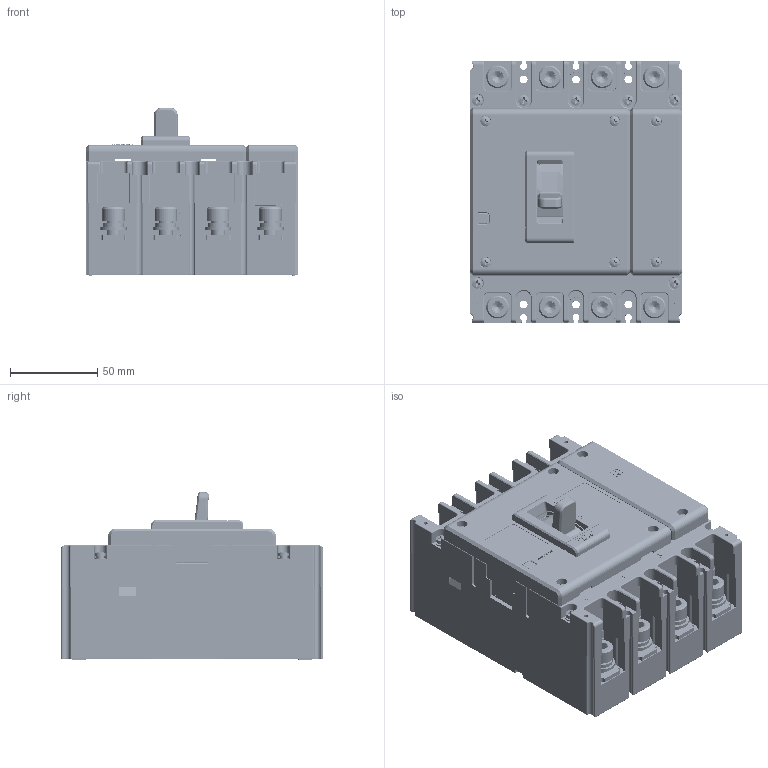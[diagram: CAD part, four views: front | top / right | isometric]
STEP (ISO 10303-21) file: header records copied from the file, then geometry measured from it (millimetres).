
FILE_DESCRIPTION((''),'2;1');
FILE_NAME('2253024700_ASM_ASM','2021-06-10T',('guobiao.he'),(''),'PRO/ENGINEER BY PARAMETRIC TECHNOLOGY CORPORATION, 2015440','PRO/ENGINEER BY PARAMETRIC TECHNOLOGY CORPORATION, 2015440','');
FILE_SCHEMA(('CONFIG_CONTROL_DESIGN'));
Products named in the file (59): JZ8024044800_120; GB_T809_M3_5X12_4; 5024044800_ASM_91_ASM; 70801007_GB_T6170_M8_2; 8551037900_1; 8550079800_8; 5551081000_ASM_2_ASM; GB_T823-M3_5X10_7; 7090300201_GB_T93_3_10; 8950019500_5; 5850004500_ASM_1_ASM; GB_T109-2X7_12; 5420213400_ASM_23_ASM; 8585071200_4; 5420213500_ASM_19_ASM; 5551103400_ASM_34_ASM; 5551103500_ASM_15_ASM; 5551103300_ASM_14_ASM; MANIFOLD_SOLID_BREP_119020; MANIFOLD_SOLID_BREP_119171; 8505026800_3_ASM; 8585065200_4; 5551108300_ASM_9_ASM; 5551108400_ASM_5_ASM; 55511035P02_2; 5551106000_ASM_15_ASM; 5551107900_ASM_7_ASM; 5551108000_ASM_11_ASM; GB_T818-M3X8_3; 8950022000_1; 5850005300_ASM_2_ASM; 5511007100_ASM_1_ASM; 8231017100_3; GB_T823-M3_5X25_7; 5850007100_ASM_2_ASM; 5295008500_ASM_49_ASM; 8742111600_2; 8742111500_1; 8253076900_21; 5253029000_ASM_21_ASM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
Assembly tree (126 placements, depth 11):
  2253024700_ASM_ASM
    2253024700_ASM_49_ASM
      5295008500_ASM_49_ASM
        5024044800_ASM_91_ASM
          JZ8024044800_120
          GB_T809_M3_5X12_4  x7
        70801007_GB_T6170_M8_2  x8
        5551081000_ASM_2_ASM  x4
          8551037900_1
          8550079800_8
        5850004500_ASM_1_ASM  x8
          GB_T823-M3_5X10_7
          7090300201_GB_T93_3_10
          8950019500_5
        5551108000_ASM_11_ASM
          5551107900_ASM_7_ASM
            5551106000_ASM_15_ASM
              5551103500_ASM_15_ASM  x3
                5551103400_ASM_34_ASM
                  5420213500_ASM_19_ASM
              5551108400_ASM_5_ASM
                5551108300_ASM_9_ASM
                  5551103300_ASM_14_ASM
                  8505026800_3_ASM
                  8585065200_4
              55511035P02_2
        5850005300_ASM_2_ASM  x3
          GB_T818-M3X8_3
          7090300201_GB_T93_3_10
          8950022000_1
        5511007100_ASM_1_ASM
          8585065200_4  x2
          8505026800_3_ASM
            MANIFOLD_SOLID_BREP_119020
            MANIFOLD_SOLID_BREP_119171
        8231017100_3
        5850007100_ASM_2_ASM  x4
          GB_T823-M3_5X25_7
          7090300201_GB_T93_3_10
          8950019500_5
      8742111600_2  x4
      8742111500_1  x4
      5253029000_ASM_21_ASM
        8253076900_21
      8156031900_1  x3
      5850008100_ASM_5_ASM  x8
        7010600401L_GB_T70_1_M8X16_1
        7090370701K_GB_T93_8_10
        GB_T97_4_8_3
      8750038500_11
      8750034300_1  x4
      5315052200_ASM_18_ASM
        5315051100_ASM_13_ASM
          8315096200_106
          8282073000_AF0_2
          8253076800_16
        8315096300_52
        8315096400_57
        7020100411_GB13806_2_ST2_9X8_A_  x6
      5850007200_ASM_4_ASM  x7
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Bounding box: 122 x 150 x 96.51 mm (x, y, z)
Volume: 477358.9 mm3; surface area: 399396.6 mm2
Topology: 159 solids, 159 shells, 10078 faces, 26636 edges, 16853 vertices
Faces by surface type: plane 5560, cylinder 3010, cone 382, torus 362, sphere 317, extrusion 261, bspline 186
Entity records: 257169 total; most frequent: CARTESIAN_POINT 60428, ORIENTED_EDGE 41422, DIRECTION 40297, EDGE_CURVE 20711, VECTOR 14095, LINE 13834, VERTEX_POINT 13271, AXIS2_PLACEMENT_3D 13101
